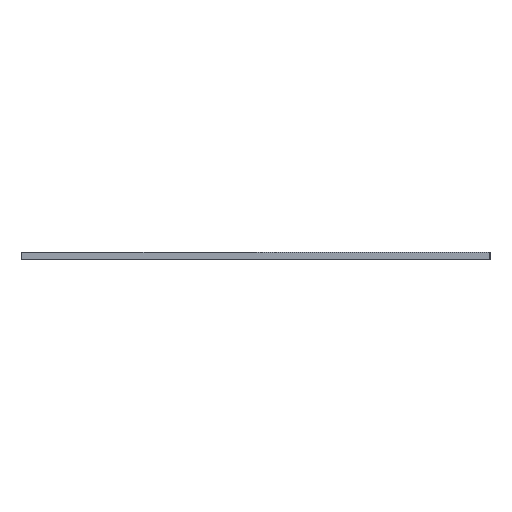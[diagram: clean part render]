
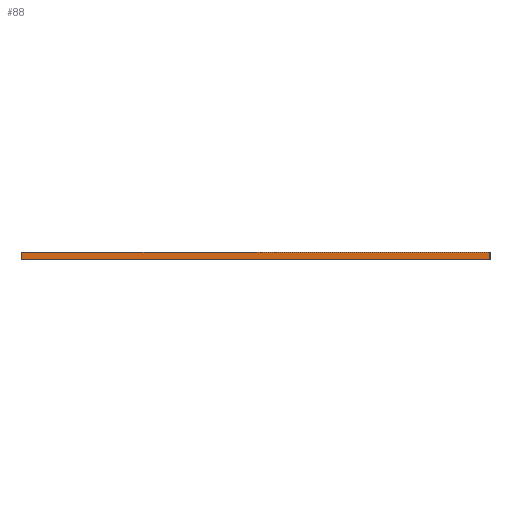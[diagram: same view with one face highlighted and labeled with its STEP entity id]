
A CAD part, left-side view. The second image highlights one B-rep face of the part: STEP entity #88.
In plain terms, the highlighted planar face has unit normal (-1, 0, 0).
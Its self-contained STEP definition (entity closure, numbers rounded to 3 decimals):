
#32 = VERTEX_POINT('',#33);
#33 = CARTESIAN_POINT('',(-285.,0.,-3.));
#39 = EDGE_CURVE('',#40,#32,#42,.T.);
#40 = VERTEX_POINT('',#41);
#41 = CARTESIAN_POINT('',(-285.,0.,0.));
#42 = LINE('',#43,#44);
#43 = CARTESIAN_POINT('',(-285.,0.,0.));
#44 = VECTOR('',#45,1.);
#45 = DIRECTION('',(-0.,-0.,-1.));
#88 = ADVANCED_FACE('',(#89),#114,.F.);
#89 = FACE_BOUND('',#90,.F.);
#90 = EDGE_LOOP('',(#91,#92,#100,#108));
#91 = ORIENTED_EDGE('',*,*,#39,.T.);
#92 = ORIENTED_EDGE('',*,*,#93,.T.);
#93 = EDGE_CURVE('',#32,#94,#96,.T.);
#94 = VERTEX_POINT('',#95);
#95 = CARTESIAN_POINT('',(-285.,193.,-3.));
#96 = LINE('',#97,#98);
#97 = CARTESIAN_POINT('',(-285.,0.,-3.));
#98 = VECTOR('',#99,1.);
#99 = DIRECTION('',(0.,1.,0.));
#100 = ORIENTED_EDGE('',*,*,#101,.F.);
#101 = EDGE_CURVE('',#102,#94,#104,.T.);
#102 = VERTEX_POINT('',#103);
#103 = CARTESIAN_POINT('',(-285.,193.,0.));
#104 = LINE('',#105,#106);
#105 = CARTESIAN_POINT('',(-285.,193.,0.));
#106 = VECTOR('',#107,1.);
#107 = DIRECTION('',(-0.,-0.,-1.));
#108 = ORIENTED_EDGE('',*,*,#109,.F.);
#109 = EDGE_CURVE('',#40,#102,#110,.T.);
#110 = LINE('',#111,#112);
#111 = CARTESIAN_POINT('',(-285.,0.,0.));
#112 = VECTOR('',#113,1.);
#113 = DIRECTION('',(0.,1.,0.));
#114 = PLANE('',#115);
#115 = AXIS2_PLACEMENT_3D('',#116,#117,#118);
#116 = CARTESIAN_POINT('',(-285.,0.,0.));
#117 = DIRECTION('',(1.,0.,0.));
#118 = DIRECTION('',(0.,1.,0.));
